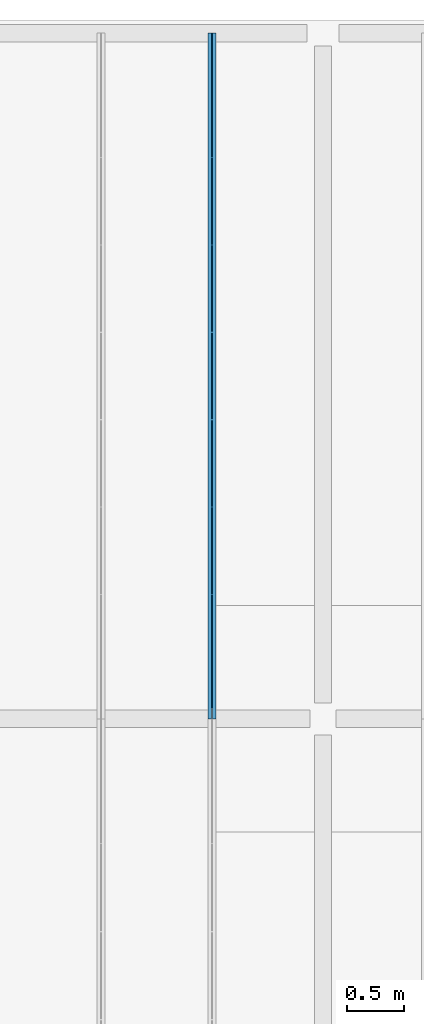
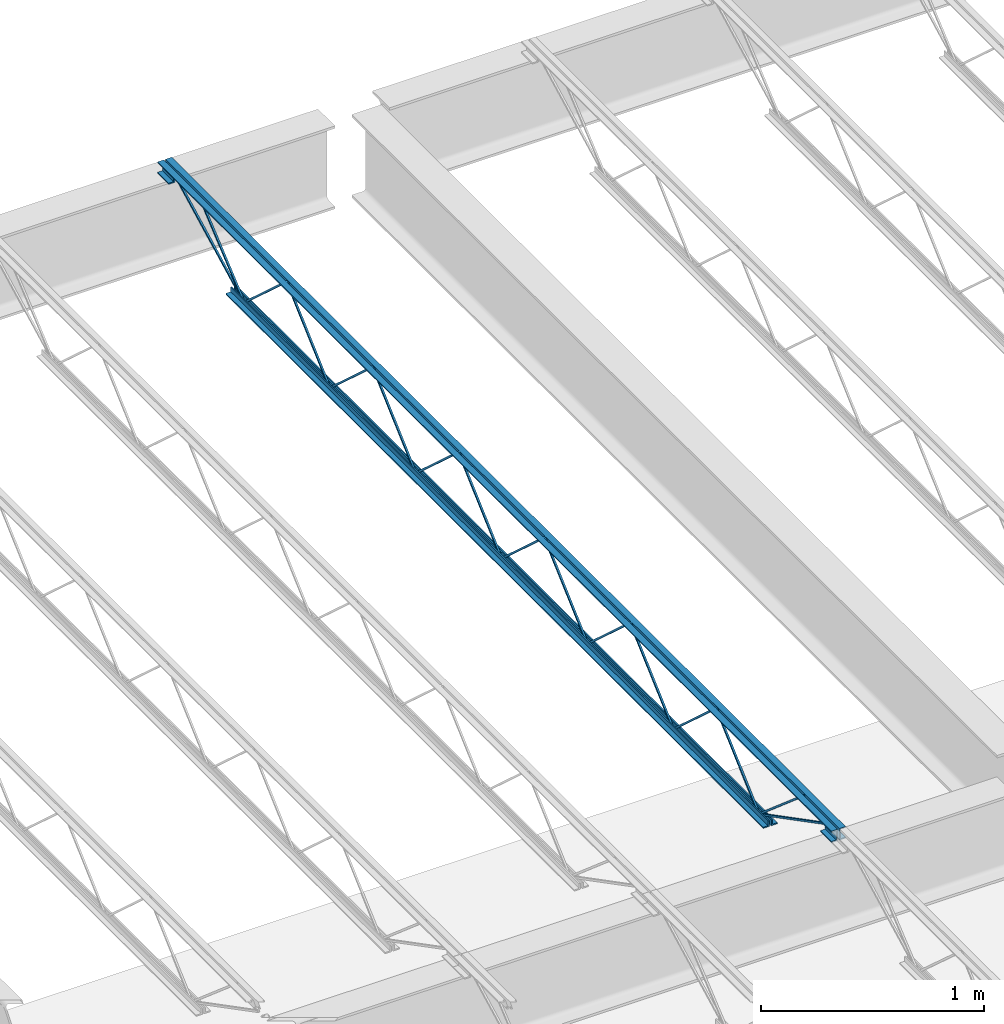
# One storey, part 39 of 75: 1 beam.
"""IFC2X3 building model written with IfcOpenShell, lengths in metres."""

import ifcopenshell
import ifcopenshell.guid

model = None  # the IFC model being written
_history = None  # IfcOwnerHistory: only IFC2X3 demands one
_inside = {}  # id of a spatial element -> (the spatial element, [elements in it])
_under = {}  # id of a project, library or spatial element -> (it, [spatial elements below it])
_declared = {}  # id of a project -> (the project, [libraries it declares])
_typed = {}  # id of a type object -> (the type object, [elements of that type])
_made_of = {}  # id of a material, layer set ... -> (it, [elements and type objects made of it])


def new_model(schema):
    """Start an empty IFC model of exactly this schema.

    Asked for "IFC4X3", IfcOpenShell would pick the latest addendum, in which some entities
    have other attributes; the version numbers below select the first issue.
    IFC2X3 requires an IfcOwnerHistory on every rooted entity: one is made here for all.
    """
    global model, _history
    if schema == "IFC4X3":
        model = ifcopenshell.file(schema_version=(4, 3, 0, 0))
    else:
        model = ifcopenshell.file(schema=schema)
    _inside.clear()
    _under.clear()
    _declared.clear()
    _typed.clear()
    _made_of.clear()
    _history = None
    if model.schema == "IFC2X3":
        org = make("IfcOrganization", Name="unknown")
        user = make(
            "IfcPersonAndOrganization",
            ThePerson=make("IfcPerson", FamilyName="unknown"),
            TheOrganization=org,
        )
        app = make(
            "IfcApplication",
            ApplicationDeveloper=org,
            Version="unknown",
            ApplicationFullName="unknown",
            ApplicationIdentifier="unknown",
        )
        _history = make(
            "IfcOwnerHistory",
            OwningUser=user,
            OwningApplication=app,
            ChangeAction="ADDED",
            CreationDate=0,
        )
    return model


def make(cls, **values):
    """One entity of the class cls with the attributes given. An attribute that is None is left unset."""
    return model.create_entity(
        cls, **{name: value for name, value in values.items() if value is not None}
    )


def entity(cls, *values):
    """Any entity or typed value of the class cls, its attributes in the order of the schema. None: left unset."""
    e = model.create_entity(cls)
    for i, value in enumerate(values):
        if value is not None:
            e[i] = value
    return e


def rooted(cls, **values):
    """An entity with a GlobalId (a new one), such as an element, a storey or a relation."""
    return make(cls, GlobalId=ifcopenshell.guid.new(), OwnerHistory=_history, **values)


def si_unit(unit_type, name, prefix=None):
    """IfcSIUnit, for example si_unit("LENGTHUNIT", "METRE", prefix="MILLI")."""
    return make("IfcSIUnit", UnitType=unit_type, Prefix=prefix, Name=name)


def converted_unit(unit_type, name, factor, base, dimensions=None, offset=None):
    """IfcConversionBasedUnit, such as the inch: factor (a typed value) times the base unit."""
    return make(
        "IfcConversionBasedUnit"
        if offset is None
        else "IfcConversionBasedUnitWithOffset",
        ConversionOffset=offset,
        Dimensions=None
        if dimensions is None
        else entity("IfcDimensionalExponents", *dimensions),
        UnitType=unit_type,
        Name=name,
        ConversionFactor=make(
            "IfcMeasureWithUnit", ValueComponent=factor, UnitComponent=base
        ),
    )


def assignment(units):
    """IfcUnitAssignment: the units of a project."""
    return None if units is None else make("IfcUnitAssignment", Units=units)


def point(xyz):
    """IfcCartesianPoint."""
    return None if xyz is None else make("IfcCartesianPoint", Coordinates=xyz)


def direction(xyz):
    """IfcDirection."""
    return None if xyz is None else make("IfcDirection", DirectionRatios=xyz)


def frame(location, z_axis=None, x_axis=None):
    """IfcAxis2Placement3D, a coordinate frame: its origin and axes. An axis left out is left unset."""
    return make(
        "IfcAxis2Placement3D",
        Location=point(location),
        Axis=direction(z_axis),
        RefDirection=direction(x_axis),
    )


def origin():
    """The frame at (0, 0, 0) with its axes left unset."""
    return frame((0.0, 0.0, 0.0))


def place(relative_to, where):
    """IfcLocalPlacement: puts the frame where relative to a parent placement (None: the world)."""
    return make(
        "IfcLocalPlacement", PlacementRelTo=relative_to, RelativePlacement=where
    )


def context(
    kind, dimensions, precision=None, world=None, true_north=None, identifier=None
):
    """IfcGeometricRepresentationContext, for example the 3D "Model" context."""
    return make(
        "IfcGeometricRepresentationContext",
        ContextIdentifier=identifier,
        ContextType=kind,
        CoordinateSpaceDimension=dimensions,
        Precision=precision,
        WorldCoordinateSystem=world,
        TrueNorth=true_north,
    )


def project(units=None, contexts=None):
    """IfcProject with its units and contexts."""
    return rooted(
        "IfcProject",
        Name="project",
        RepresentationContexts=contexts,
        UnitsInContext=assignment(units),
    )


def spatial(cls, under=None, at=None, **own):
    """A site, building, storey or space (cls), placed at a placement, below another one or the project."""
    s = rooted(cls, ObjectPlacement=at, **own)
    if under is not None:
        _under.setdefault(under.id(), (under, []))[1].append(s)
    return s


def faces_of(points, faces, orient=None, outer=None):
    """IfcFace entities. A face is a list of loops; a loop is a list of indices into points, from 0.

    orient and outer hold one flag for each loop. By default every Orientation is true, the
    first loop of a face is its IfcFaceOuterBound and the others are IfcFaceBound.
    """
    made = []
    for i, loops in enumerate(faces):
        bounds = []
        for j, loop in enumerate(loops):
            is_outer = j == 0 if outer is None else outer[i][j]
            bounds.append(
                make(
                    "IfcFaceOuterBound" if is_outer else "IfcFaceBound",
                    Bound=make("IfcPolyLoop", Polygon=[points[k] for k in loop]),
                    Orientation=True if orient is None else orient[i][j],
                )
            )
        made.append(make("IfcFace", Bounds=bounds))
    return made


def face_set(faces, orient=None, outer=None):
    """The faces of one IfcConnectedFaceSet. surface_model builds it on its shared points."""
    return ("IfcConnectedFaceSet", faces, orient, outer)


def surface_model(cls, points, shells):
    """IfcFaceBasedSurfaceModel or IfcShellBasedSurfaceModel (cls): surfaces that need not close."""
    shared = [point(p) for p in points]
    made = [make(c, CfsFaces=faces_of(shared, fs, o, b)) for c, fs, o, b in shells]
    if cls == "IfcFaceBasedSurfaceModel":
        return make(cls, FbsmFaces=made)
    return make(cls, SbsmBoundary=made)


def shape(context_of_items, identifier, shape_type, items):
    """IfcShapeRepresentation: the items that make up one representation, for example the "Body"."""
    return make(
        "IfcShapeRepresentation",
        ContextOfItems=context_of_items,
        RepresentationIdentifier=identifier,
        RepresentationType=shape_type,
        Items=items,
    )


def made_of(thing, what):
    """Note that an element or type object is made of a material, layer set ...; save() writes the relation."""
    if what is not None:
        _made_of.setdefault(what.id(), (what, []))[1].append(thing)
    return thing


def element(
    cls,
    number,
    at=None,
    inside=None,
    cuts=None,
    type_object=None,
    material=None,
    context=None,
    identifier="Body",
    shape_type=None,
    held_by="IfcProductDefinitionShape",
    body=None,
    shapes=None,
    **own,
):
    """One element of the class cls, such as IfcWall. Its Tag is "e" and its number.

    at: its placement. inside: the storey or other place that contains it. cuts: it is an
    opening in that element (IfcRelVoidsElement). A single representation is given by context,
    identifier, shape_type and body (its items); several are given by shapes. held_by: the class
    of the entity that holds the representations. save() writes the other relations.
    """
    e = rooted(cls, Tag="e%d" % number, ObjectPlacement=at, **own)
    if body is not None:
        shapes = [shape(context, identifier, shape_type, body)]
    if shapes is not None:
        e.Representation = make(held_by, Representations=shapes)
    if inside is not None:
        _inside.setdefault(inside.id(), (inside, []))[1].append(e)
    if cuts is not None:
        rooted(
            "IfcRelVoidsElement", RelatingBuildingElement=cuts, RelatedOpeningElement=e
        )
    if type_object is not None:
        _typed.setdefault(type_object.id(), (type_object, []))[1].append(e)
    return made_of(e, material)


def aggregate(whole, parts):
    """IfcRelAggregates: a whole, such as a stair, and the parts it consists of."""
    return rooted("IfcRelAggregates", RelatingObject=whole, RelatedObjects=parts)


def save(model, path):
    """Write the relations noted so far, then the file.

    IfcRelAggregates (storeys below a building ...), IfcRelContainedInSpatialStructure (elements
    in a storey), IfcRelDefinesByType, IfcRelAssociatesMaterial and IfcRelDeclares: one each for
    every whole, place, type object, material and project.
    """
    for whole, parts in _under.values():
        aggregate(whole, parts)
    for where, things in _inside.values():
        rooted(
            "IfcRelContainedInSpatialStructure",
            RelatedElements=things,
            RelatingStructure=where,
        )
    for kind, things in _typed.values():
        rooted("IfcRelDefinesByType", RelatedObjects=things, RelatingType=kind)
    for what, things in _made_of.values():
        rooted("IfcRelAssociatesMaterial", RelatedObjects=things, RelatingMaterial=what)
    for by, libraries in _declared.values():
        rooted("IfcRelDeclares", RelatingContext=by, RelatedDefinitions=libraries)
    model.write(path)


model = new_model("IFC2X3")

# Units and contexts
model_context = context("Model", 3, precision=1e-09, world=origin())
plan_context = context("Plan", 3, precision=1e-09, world=origin())
ifc_project = project(units=[si_unit("LENGTHUNIT", "METRE"), si_unit("AREAUNIT", "SQUARE_METRE"), si_unit("VOLUMEUNIT", "CUBIC_METRE"), converted_unit("PLANEANGLEUNIT", "DEGREE", entity("IfcRatioMeasure", 0.01745329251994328), si_unit("PLANEANGLEUNIT", "RADIAN"), dimensions=[0, 0, 0, 0, 0, 0, 0]), si_unit("TIMEUNIT", "SECOND")], contexts=[model_context, plan_context])

# Site, building, storey
site_placement = place(None, origin())
site = spatial("IfcSite", under=ifc_project, at=site_placement, Name="Default", CompositionType="ELEMENT")
building_placement = place(site_placement, origin())
building = spatial("IfcBuilding", under=site, at=building_placement, CompositionType="ELEMENT")
storey_placement = place(building_placement, origin())
storey = spatial("IfcBuildingStorey", under=building, at=storey_placement, Name="First Floor", CompositionType="ELEMENT", Elevation=-3.531500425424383e-13)

# Beam
beam_placement = place(storey_placement, frame((-48.01674999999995, 50.09000000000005, 4.112000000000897), z_axis=(0.0, 0.0, 1.0), x_axis=(-1.0, 0.0, 0.0)))
element("IfcBeam", 1, at=beam_placement, inside=storey, Name="M_K-Series Bar Joist-Rod Web:14K1:14K1", ObjectType="M_K-Series Bar Joist-Rod Web:14K1", context=model_context, shape_type="SurfaceModel", body=[
    surface_model("IfcFaceBasedSurfaceModel", [(-0.03200000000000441, -2.254000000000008, 0.01110000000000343), (-0.0415000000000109, -2.254000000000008, 0.01110000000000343), (-0.0415000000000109, -2.254000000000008, 0.001600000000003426), (-0.03200000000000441, -2.254000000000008, 0.001600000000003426), (-0.04150000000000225, -2.252655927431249, 0.01110000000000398), (-0.03200000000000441, -2.252655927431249, 0.01110000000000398), (-0.04150000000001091, -2.248994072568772, 0.001600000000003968), (-0.04150000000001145, -1.869844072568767, 0.3449000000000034), (-0.04150000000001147, -1.86715592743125, 0.3449000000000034), (-0.04150000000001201, -1.48800592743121, 0.001600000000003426), (-0.04150000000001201, -1.483000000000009, 0.001600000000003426), (-0.04150000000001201, -1.483000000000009, 0.01110000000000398), (-0.04150000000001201, -1.484344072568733, 0.01110000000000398), (-0.04150000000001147, -1.863494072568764, 0.3544000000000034), (-0.04150000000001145, -1.873505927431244, 0.3544000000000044), (-0.03200000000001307, -2.248994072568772, 0.001600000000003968), (-0.03200000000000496, -1.869844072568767, 0.3449000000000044), (-0.03200000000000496, -1.86715592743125, 0.3449000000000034), (-0.0320000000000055, -1.48800592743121, 0.001600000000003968), (-0.03200000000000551, -1.483000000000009, 0.001600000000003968), (-0.03200000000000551, -1.483000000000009, 0.01110000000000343), (-0.0320000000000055, -1.484344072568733, 0.01110000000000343), (-0.03200000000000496, -1.863494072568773, 0.3544000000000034), (-0.03200000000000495, -1.873505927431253, 0.3544000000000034), (-0.0320000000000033, -3.025000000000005, 0.01110000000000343), (-0.04150000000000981, -3.025000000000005, 0.01110000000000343), (-0.04150000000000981, -3.025000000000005, 0.001600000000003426), (-0.0320000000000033, -3.025000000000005, 0.001600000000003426), (-0.04150000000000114, -3.023655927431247, 0.01110000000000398), (-0.0320000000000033, -3.023655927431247, 0.01110000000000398), (-0.04150000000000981, -3.01999407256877, 0.001600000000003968), (-0.04150000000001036, -2.640844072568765, 0.3449000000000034), (-0.04150000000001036, -2.638155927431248, 0.3449000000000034), (-0.0415000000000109, -2.259005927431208, 0.001600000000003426), (-0.0415000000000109, -2.254000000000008, 0.01110000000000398), (-0.0415000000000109, -2.255344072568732, 0.01110000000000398), (-0.04150000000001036, -2.634494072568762, 0.3544000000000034), (-0.04150000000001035, -2.644505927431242, 0.3544000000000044), (-0.03200000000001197, -3.01999407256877, 0.001600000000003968), (-0.03200000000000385, -2.640844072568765, 0.3449000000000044), (-0.03200000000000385, -2.638155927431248, 0.3449000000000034), (-0.03200000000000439, -2.259005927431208, 0.001600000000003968), (-0.03200000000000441, -2.254000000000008, 0.001600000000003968), (-0.0320000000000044, -2.255344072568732, 0.01110000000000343), (-0.03200000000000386, -2.634494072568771, 0.3544000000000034), (-0.03200000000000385, -2.644505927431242, 0.3544000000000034), (-0.03200000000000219, -3.796000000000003, 0.01110000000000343), (-0.0415000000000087, -3.796000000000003, 0.01110000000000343), (-0.0415000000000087, -3.796000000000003, 0.001600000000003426), (-0.03200000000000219, -3.796000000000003, 0.001600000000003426), (-0.04150000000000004, -3.794655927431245, 0.01110000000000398), (-0.03200000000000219, -3.794655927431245, 0.01110000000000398), (-0.0415000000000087, -3.790994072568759, 0.001600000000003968), (-0.04150000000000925, -3.411844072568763, 0.3449000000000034), (-0.04150000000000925, -3.409155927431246, 0.3449000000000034), (-0.04150000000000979, -3.030005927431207, 0.001600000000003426), (-0.04150000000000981, -3.025000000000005, 0.01110000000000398), (-0.04150000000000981, -3.026344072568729, 0.01110000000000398), (-0.04150000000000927, -3.40549407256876, 0.3544000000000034), (-0.04150000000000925, -3.41550592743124, 0.3544000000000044), (-0.03200000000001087, -3.790994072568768, 0.001600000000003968), (-0.03200000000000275, -3.411844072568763, 0.3449000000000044), (-0.03200000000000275, -3.409155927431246, 0.3449000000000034), (-0.03200000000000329, -3.030005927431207, 0.001600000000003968), (-0.0320000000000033, -3.025000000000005, 0.001600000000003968), (-0.0320000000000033, -3.026344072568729, 0.01110000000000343), (-0.03200000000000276, -3.40549407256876, 0.3544000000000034), (-0.03200000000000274, -3.41550592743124, 0.3544000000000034), (-0.03200000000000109, -4.567000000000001, 0.01110000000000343), (-0.04150000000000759, -4.567000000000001, 0.01110000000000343), (-0.04150000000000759, -4.567000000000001, 0.001600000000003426), (-0.03200000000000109, -4.567000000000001, 0.001600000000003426), (-0.04149999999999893, -4.565655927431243, 0.01110000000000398), (-0.03200000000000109, -4.565655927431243, 0.01110000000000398), (-0.04150000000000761, -4.561994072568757, 0.001600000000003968), (-0.04150000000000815, -4.182844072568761, 0.3449000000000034), (-0.04150000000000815, -4.180155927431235, 0.3449000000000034), (-0.0415000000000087, -3.801005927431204, 0.001600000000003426), (-0.0415000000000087, -3.795999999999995, 0.001600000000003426), (-0.0415000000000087, -3.796000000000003, 0.01110000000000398), (-0.0415000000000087, -3.797344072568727, 0.01110000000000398), (-0.04150000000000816, -4.176494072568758, 0.3544000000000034), (-0.04150000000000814, -4.186505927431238, 0.3544000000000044), (-0.03200000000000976, -4.561994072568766, 0.001600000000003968), (-0.03200000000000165, -4.182844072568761, 0.3449000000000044), (-0.03200000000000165, -4.180155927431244, 0.3449000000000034), (-0.03200000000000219, -3.801005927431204, 0.001600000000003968), (-0.03200000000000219, -3.796000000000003, 0.001600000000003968), (-0.03200000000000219, -3.795999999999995, 0.01110000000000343), (-0.03200000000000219, -3.797344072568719, 0.01110000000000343), (-0.03200000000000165, -4.176494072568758, 0.3544000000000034), (-0.03200000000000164, -4.186505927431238, 0.3544000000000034), (-0.03200000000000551, -1.483000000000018, 0.01109999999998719), (-0.04150000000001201, -1.483000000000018, 0.01109999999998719), (-0.04150000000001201, -1.483000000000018, 0.001599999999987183), (-0.03200000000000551, -1.483000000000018, 0.001599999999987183), (-0.04150000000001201, -1.48165592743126, 0.01109999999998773), (-0.03200000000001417, -1.48165592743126, 0.01109999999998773), (-0.04150000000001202, -1.477994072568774, 0.001599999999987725), (-0.04150000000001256, -1.098844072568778, 0.3448999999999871), (-0.04150000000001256, -1.096155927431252, 0.3448999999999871), (-0.04150000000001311, -0.717005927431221, 0.001599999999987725), (-0.04150000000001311, -0.7120000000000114, 0.001599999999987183), (-0.04150000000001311, -0.7120000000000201, 0.01109999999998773), (-0.04150000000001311, -0.713344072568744, 0.01109999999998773), (-0.04150000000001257, -1.092494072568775, 0.3543999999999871), (-0.04150000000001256, -1.102505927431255, 0.3543999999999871), (-0.03200000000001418, -1.477994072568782, 0.001599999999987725), (-0.03200000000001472, -1.098844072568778, 0.3448999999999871), (-0.03200000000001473, -1.09615592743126, 0.3448999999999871), (-0.03200000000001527, -0.717005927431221, 0.001599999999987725), (-0.03200000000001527, -0.7120000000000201, 0.001599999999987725), (-0.03200000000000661, -0.7120000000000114, 0.01109999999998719), (-0.03200000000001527, -0.7133440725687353, 0.01109999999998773), (-0.03200000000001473, -1.092494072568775, 0.3543999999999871), (-0.03200000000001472, -1.102505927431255, 0.3543999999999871), (-0.03199999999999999, -5.33799999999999, 0.01110000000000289), (-0.04150000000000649, -5.33799999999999, 0.01110000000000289), (-0.04150000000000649, -5.33799999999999, 0.001600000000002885), (-0.03199999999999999, -5.33799999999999, 0.001600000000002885), (-0.04149999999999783, -5.336655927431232, 0.01110000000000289), (-0.03199999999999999, -5.336655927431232, 0.01110000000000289), (-0.0415000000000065, -5.332994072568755, 0.001600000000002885), (-0.04150000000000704, -4.95384407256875, 0.3449000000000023), (-0.04150000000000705, -4.951155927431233, 0.3449000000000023), (-0.04150000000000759, -4.572005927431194, 0.001600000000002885), (-0.04150000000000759, -4.566999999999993, 0.001600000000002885), (-0.04150000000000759, -4.566999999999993, 0.01110000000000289), (-0.04150000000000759, -4.568344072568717, 0.01110000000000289), (-0.04150000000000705, -4.947494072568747, 0.3544000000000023), (-0.04150000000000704, -4.957505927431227, 0.3544000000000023), (-0.03200000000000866, -5.332994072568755, 0.001600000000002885), (-0.03200000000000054, -4.95384407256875, 0.3449000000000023), (-0.03200000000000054, -4.951155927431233, 0.3449000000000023), (-0.03200000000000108, -4.572005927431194, 0.001600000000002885), (-0.03200000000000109, -4.566999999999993, 0.001600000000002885), (-0.03200000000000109, -4.566999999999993, 0.01110000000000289), (-0.03200000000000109, -4.568344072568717, 0.01110000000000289), (-0.03200000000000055, -4.947494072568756, 0.3544000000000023), (-0.03200000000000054, -4.957505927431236, 0.3544000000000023), (-0.04150000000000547, 0.0, 0.3559999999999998), (-0.07350000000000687, 0.0, 0.3559999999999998), (-0.07350000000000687, 0.0, 0.349499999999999), (-0.048000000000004, 0.0, 0.349499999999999), (-0.048000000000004, 0.0, 0.3239999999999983), (-0.04150000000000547, 0.0, 0.3239999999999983), (-0.03200000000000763, 0.0, 0.3559999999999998), (-0.03200000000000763, 0.0, 0.3239999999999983), (-0.02550000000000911, 0.0, 0.3239999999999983), (-0.02550000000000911, 0.0, 0.349499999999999), (0.0, 0.0, 0.349499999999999), (0.0, 0.0, 0.3559999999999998), (-0.04150000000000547, -6.049999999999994, 0.3559999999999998), (-0.07350000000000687, -6.049999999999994, 0.3559999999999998), (-0.07350000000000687, -6.049999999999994, 0.349499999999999), (-0.048000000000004, -6.049999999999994, 0.349499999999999), (-0.048000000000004, -6.049999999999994, 0.3239999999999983), (-0.04150000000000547, -6.049999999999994, 0.3239999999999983), (-0.03200000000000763, -6.049999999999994, 0.3559999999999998), (-0.03200000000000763, -6.049999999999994, 0.3239999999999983), (-0.02550000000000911, -6.049999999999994, 0.3239999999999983), (-0.02550000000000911, -6.049999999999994, 0.349499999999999), (0.0, -6.049999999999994, 0.349499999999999), (0.0, -6.049999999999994, 0.3559999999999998), (-0.03199999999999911, -5.950000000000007, 0.2924999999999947), (0.0, -5.950000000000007, 0.2924999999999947), (0.0, -5.950000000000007, 0.2989999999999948), (-0.02550000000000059, -5.950000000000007, 0.2989999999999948), (-0.02550000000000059, -5.950000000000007, 0.3239999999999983), (-0.03199999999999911, -5.950000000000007, 0.3239999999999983), (-0.07349999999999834, -5.950000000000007, 0.2924999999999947), (-0.04149999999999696, -5.950000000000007, 0.2924999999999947), (-0.04149999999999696, -5.950000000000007, 0.3239999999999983), (-0.04799999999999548, -5.950000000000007, 0.3239999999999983), (-0.04799999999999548, -5.950000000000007, 0.2989999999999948), (-0.07349999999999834, -5.950000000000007, 0.2989999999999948), (-0.03199999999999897, -6.049999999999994, 0.2924999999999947), (0.0, -6.049999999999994, 0.2924999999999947), (0.0, -6.049999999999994, 0.2989999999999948), (-0.02550000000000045, -6.049999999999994, 0.2989999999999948), (-0.02550000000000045, -6.049999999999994, 0.3239999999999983), (-0.03199999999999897, -6.049999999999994, 0.3239999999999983), (-0.07349999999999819, -6.049999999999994, 0.2924999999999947), (-0.04149999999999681, -6.049999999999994, 0.2924999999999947), (-0.04149999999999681, -6.049999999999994, 0.3239999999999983), (-0.04799999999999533, -6.049999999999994, 0.3239999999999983), (-0.04799999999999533, -6.049999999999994, 0.2989999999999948), (-0.07349999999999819, -6.049999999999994, 0.2989999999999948), (-0.04149999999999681, 0.0, 0.2924999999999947), (-0.04149999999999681, 0.0, 0.3239999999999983), (-0.04799999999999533, 0.0, 0.3239999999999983), (-0.04799999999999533, 0.0, 0.2989999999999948), (-0.07349999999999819, 0.0, 0.2989999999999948), (-0.07349999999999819, 0.0, 0.2924999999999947), (-0.03199999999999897, 0.0, 0.2924999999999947), (0.0, 0.0, 0.2924999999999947), (0.0, 0.0, 0.2989999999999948), (-0.02550000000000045, 0.0, 0.2989999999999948), (-0.02550000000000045, 0.0, 0.3239999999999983), (-0.03199999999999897, 0.0, 0.3239999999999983), (-0.04150000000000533, -0.0999999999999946, 0.2924999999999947), (-0.04150000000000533, -0.0999999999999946, 0.3239999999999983), (-0.04800000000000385, -0.0999999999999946, 0.3239999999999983), (-0.04800000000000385, -0.0999999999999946, 0.2989999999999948), (-0.07350000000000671, -0.0999999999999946, 0.2989999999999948), (-0.07350000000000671, -0.0999999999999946, 0.2924999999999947), (-0.03200000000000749, -0.0999999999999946, 0.2924999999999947), (0.0, -0.0999999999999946, 0.2924999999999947), (0.0, -0.0999999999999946, 0.2989999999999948), (-0.02550000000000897, -0.0999999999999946, 0.2989999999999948), (-0.02550000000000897, -0.0999999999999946, 0.3239999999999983), (-0.03200000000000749, -0.0999999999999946, 0.3239999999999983), (-0.04150000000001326, -0.6119999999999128, 0.0), (-0.04150000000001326, -0.6119999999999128, 0.03199999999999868), (-0.04800000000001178, -0.6119999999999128, 0.03199999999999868), (-0.04800000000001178, -0.6119999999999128, 0.006499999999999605), (-0.07350000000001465, -0.6119999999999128, 0.006499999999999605), (-0.07350000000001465, -0.6119999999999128, 0.0), (-0.03200000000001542, -0.6119999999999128, 0.0), (0.0, -0.6119999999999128, 0.0), (0.0, -0.6119999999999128, 0.006499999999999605), (-0.0255000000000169, -0.6119999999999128, 0.006499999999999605), (-0.0255000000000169, -0.6119999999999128, 0.03199999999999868), (-0.03200000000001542, -0.6119999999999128, 0.03199999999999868), (-0.04150000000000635, -5.437999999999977, 0.0), (-0.04150000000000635, -5.437999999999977, 0.03199999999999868), (-0.04800000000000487, -5.437999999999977, 0.03199999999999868), (-0.04800000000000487, -5.437999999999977, 0.006499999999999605), (-0.07350000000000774, -5.437999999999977, 0.006499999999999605), (-0.07350000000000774, -5.437999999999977, 0.0), (-0.03200000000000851, -5.437999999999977, 0.0), (0.0, -5.437999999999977, 0.0), (0.0, -5.437999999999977, 0.006499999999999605), (-0.02550000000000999, -5.437999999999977, 0.006499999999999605), (-0.02550000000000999, -5.437999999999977, 0.03199999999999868), (-0.03200000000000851, -5.437999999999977, 0.03199999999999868), (-0.03199999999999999, -5.335811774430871, 0.01056594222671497), (-0.0415000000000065, -5.335811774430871, 0.01056594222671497), (-0.04150000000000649, -5.34018822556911, 0.002134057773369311), (-0.03199999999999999, -5.34018822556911, 0.002134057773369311), (-0.03199999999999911, -5.948840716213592, 0.3287499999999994), (-0.03199999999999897, -6.049999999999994, 0.3287499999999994), (-0.03199999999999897, -6.049999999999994, 0.3192499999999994), (-0.03199999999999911, -5.951159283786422, 0.3192499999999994), (-0.04149999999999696, -5.951159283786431, 0.3192499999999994), (-0.04150000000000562, -5.948840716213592, 0.3287499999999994), (-0.04150000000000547, -6.049999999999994, 0.3287499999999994), (-0.04150000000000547, -6.049999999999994, 0.3192499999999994), (-0.03199999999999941, -5.743457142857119, 0.341700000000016), (-0.04150000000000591, -5.743457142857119, 0.341700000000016), (-0.04150000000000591, -5.743457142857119, 0.332200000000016), (-0.03199999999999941, -5.743457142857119, 0.332200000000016), (-0.04149999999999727, -5.729024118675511, 0.341700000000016), (-0.03199999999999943, -5.729024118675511, 0.341700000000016), (-0.04150000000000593, -5.732490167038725, 0.332200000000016), (-0.04150000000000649, -5.341058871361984, 0.002716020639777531), (-0.0415000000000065, -5.334941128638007, 0.009983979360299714), (-0.03200000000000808, -5.732490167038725, 0.332200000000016), (-0.03199999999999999, -5.341058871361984, 0.002716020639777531), (-0.03199999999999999, -5.334941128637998, 0.009983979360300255), (-0.0320000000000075, -0.09781177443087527, 0.3197840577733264), (-0.03200000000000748, -0.1021882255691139, 0.3282159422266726), (-0.04150000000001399, -0.1021882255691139, 0.3282159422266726), (-0.04150000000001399, -0.09781177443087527, 0.3197840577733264), (-0.03200000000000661, -0.7098117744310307, 0.002134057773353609), (-0.03200000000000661, -0.7141882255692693, 0.01056594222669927), (-0.04150000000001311, -0.7141882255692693, 0.01056594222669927), (-0.04150000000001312, -0.7098117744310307, 0.002134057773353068), (-0.03200000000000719, -0.3088922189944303, 0.3460454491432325), (-0.03200000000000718, -0.3150792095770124, 0.3532545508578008), (-0.04150000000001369, -0.3150792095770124, 0.3532545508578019), (-0.04150000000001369, -0.3088922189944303, 0.3460454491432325), (-0.03200000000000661, -0.7089065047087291, 0.002745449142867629), (-0.03200000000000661, -0.715093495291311, 0.009954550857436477), (-0.04150000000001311, -0.715093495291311, 0.009954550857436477), (-0.04150000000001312, -0.7089065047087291, 0.002745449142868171)], [face_set([[[0, 1, 2, 3]], [[1, 4, 5, 0]], [[2, 6, 7, 8, 9, 10, 11, 12, 13, 14, 4, 1]], [[3, 2, 6, 15]], [[0, 3, 15, 16, 17, 18, 19, 20, 21, 22, 23, 5]], [[4, 5, 23, 14]], [[15, 16, 7, 6]], [[14, 13, 22, 23]], [[16, 7, 8, 17]], [[13, 12, 21, 22]], [[17, 8, 9, 18]], [[20, 11, 10, 19]], [[12, 11, 20, 21]], [[18, 9, 10, 19]]]), face_set([[[24, 25, 26, 27]], [[25, 28, 29, 24]], [[26, 30, 31, 32, 33, 2, 34, 35, 36, 37, 28, 25]], [[27, 26, 30, 38]], [[24, 27, 38, 39, 40, 41, 42, 0, 43, 44, 45, 29]], [[28, 29, 45, 37]], [[38, 39, 31, 30]], [[37, 36, 44, 45]], [[39, 31, 32, 40]], [[36, 35, 43, 44]], [[40, 32, 33, 41]], [[0, 34, 2, 42]], [[35, 34, 0, 43]], [[41, 33, 2, 42]]]), face_set([[[46, 47, 48, 49]], [[47, 50, 51, 46]], [[48, 52, 53, 54, 55, 26, 56, 57, 58, 59, 50, 47]], [[49, 48, 52, 60]], [[46, 49, 60, 61, 62, 63, 64, 24, 65, 66, 67, 51]], [[50, 51, 67, 59]], [[60, 61, 53, 52]], [[59, 58, 66, 67]], [[61, 53, 54, 62]], [[58, 57, 65, 66]], [[62, 54, 55, 63]], [[24, 56, 26, 64]], [[57, 56, 24, 65]], [[63, 55, 26, 64]]]), face_set([[[68, 69, 70, 71]], [[69, 72, 73, 68]], [[70, 74, 75, 76, 77, 78, 79, 80, 81, 82, 72, 69]], [[71, 70, 74, 83]], [[68, 71, 83, 84, 85, 86, 87, 88, 89, 90, 91, 73]], [[72, 73, 91, 82]], [[83, 84, 75, 74]], [[82, 81, 90, 91]], [[84, 75, 76, 85]], [[81, 80, 89, 90]], [[85, 76, 77, 86]], [[88, 79, 78, 87]], [[80, 79, 88, 89]], [[86, 77, 78, 87]]]), face_set([[[92, 93, 94, 95]], [[93, 96, 97, 92]], [[94, 98, 99, 100, 101, 102, 103, 104, 105, 106, 96, 93]], [[95, 94, 98, 107]], [[92, 95, 107, 108, 109, 110, 111, 112, 113, 114, 115, 97]], [[96, 97, 115, 106]], [[107, 108, 99, 98]], [[106, 105, 114, 115]], [[108, 99, 100, 109]], [[105, 104, 113, 114]], [[109, 100, 101, 110]], [[112, 103, 102, 111]], [[104, 103, 112, 113]], [[110, 101, 102, 111]]]), face_set([[[116, 117, 118, 119]], [[117, 120, 121, 116]], [[118, 122, 123, 124, 125, 126, 127, 128, 129, 130, 120, 117]], [[119, 118, 122, 131]], [[116, 119, 131, 132, 133, 134, 135, 136, 137, 138, 139, 121]], [[120, 121, 139, 130]], [[131, 132, 123, 122]], [[130, 129, 138, 139]], [[132, 123, 124, 133]], [[129, 128, 137, 138]], [[133, 124, 125, 134]], [[136, 127, 126, 135]], [[128, 127, 136, 137]], [[134, 125, 126, 135]]]), face_set([[[140, 141, 142, 143, 144, 145]], [[146, 147, 148, 149, 150, 151]], [[152, 153, 154, 155, 156, 157]], [[158, 159, 160, 161, 162, 163]], [[145, 140, 152, 157]], [[144, 145, 157, 156]], [[143, 155, 156, 144]], [[142, 143, 155, 154]], [[141, 153, 154, 142]], [[140, 152, 153, 141]], [[151, 163, 158, 146]], [[150, 151, 163, 162]], [[149, 150, 162, 161]], [[148, 149, 161, 160]], [[147, 148, 160, 159]], [[146, 158, 159, 147]]]), face_set([[[164, 165, 166, 167, 168, 169]], [[170, 171, 172, 173, 174, 175]], [[176, 177, 178, 179, 180, 181]], [[182, 183, 184, 185, 186, 187]], [[169, 181, 176, 164]], [[168, 180, 181, 169]], [[167, 168, 180, 179]], [[166, 178, 179, 167]], [[165, 166, 178, 177]], [[164, 165, 177, 176]], [[175, 187, 182, 170]], [[174, 186, 187, 175]], [[173, 185, 186, 174]], [[172, 184, 185, 173]], [[171, 172, 184, 183]], [[170, 171, 183, 182]]]), face_set([[[188, 189, 190, 191, 192, 193]], [[194, 195, 196, 197, 198, 199]], [[200, 201, 202, 203, 204, 205]], [[206, 207, 208, 209, 210, 211]], [[193, 188, 200, 205]], [[192, 204, 205, 193]], [[191, 203, 204, 192]], [[190, 202, 203, 191]], [[189, 201, 202, 190]], [[188, 189, 201, 200]], [[199, 211, 206, 194]], [[198, 210, 211, 199]], [[197, 198, 210, 209]], [[196, 208, 209, 197]], [[195, 196, 208, 207]], [[194, 195, 207, 206]]]), face_set([[[212, 213, 214, 215, 216, 217]], [[218, 219, 220, 221, 222, 223]], [[224, 225, 226, 227, 228, 229]], [[230, 231, 232, 233, 234, 235]], [[217, 212, 224, 229]], [[216, 228, 229, 217]], [[215, 227, 228, 216]], [[214, 226, 227, 215]], [[213, 225, 226, 214]], [[212, 213, 225, 224]], [[223, 235, 230, 218]], [[222, 234, 235, 223]], [[221, 222, 234, 233]], [[220, 232, 233, 221]], [[219, 220, 232, 231]], [[218, 219, 231, 230]]]), face_set([[[236, 237, 238, 239]], [[239, 236, 240, 241, 242, 243]], [[238, 239, 243, 244]], [[237, 245, 246, 247, 244, 238]], [[236, 240, 245, 237]], [[241, 246, 247, 242]], [[244, 243, 242, 247]], [[240, 241, 246, 245]]]), face_set([[[248, 249, 250, 251]], [[249, 252, 253, 248]], [[250, 254, 255, 256, 252, 249]], [[251, 250, 254, 257]], [[248, 251, 257, 258, 259, 253]], [[259, 256, 255, 258]], [[252, 256, 259, 253]], [[257, 254, 255, 258]]]), face_set([[[260, 261, 262, 263]], [[264, 265, 266, 267]], [[263, 267, 264, 260]], [[262, 266, 267, 263]], [[261, 262, 266, 265]], [[260, 261, 265, 264]]]), face_set([[[268, 269, 270, 271]], [[272, 273, 274, 275]], [[271, 275, 272, 268]], [[270, 274, 275, 271]], [[269, 270, 274, 273]], [[268, 269, 273, 272]]])]),
])

save(model, "model.ifc")
